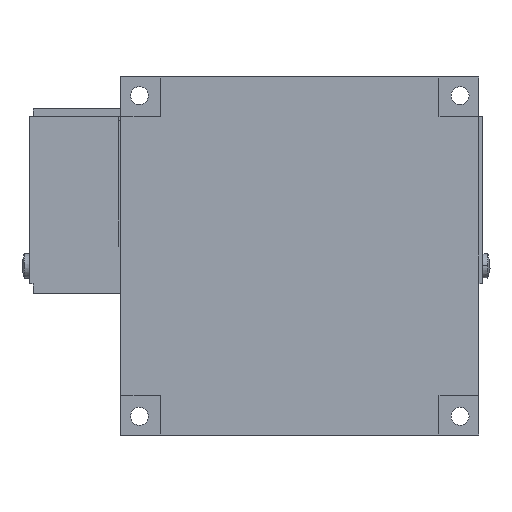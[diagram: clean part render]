
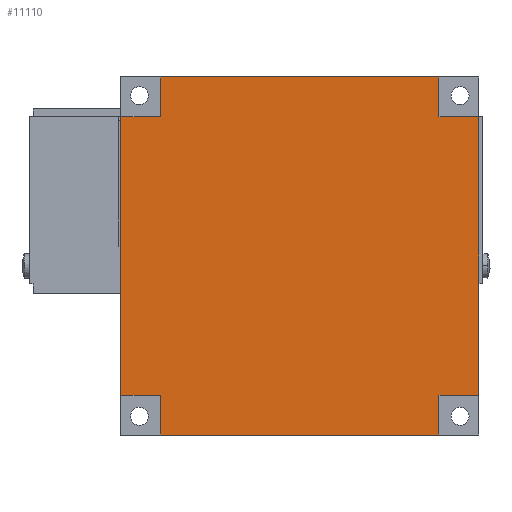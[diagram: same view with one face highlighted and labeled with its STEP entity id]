
A CAD part, front view. The second image highlights one B-rep face of the part: STEP entity #11110.
In plain terms, the highlighted planar face has unit normal (0, -1, 0).
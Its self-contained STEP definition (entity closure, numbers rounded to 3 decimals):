
#59 = CARTESIAN_POINT ( 'NONE',  ( 35., 0.5, 45. ) ) ;
#60 = DIRECTION ( 'NONE',  ( 0., 0., 1. ) ) ;
#61 = VECTOR ( 'NONE', #60, 1000. ) ;
#62 = CARTESIAN_POINT ( 'NONE',  ( 35., 0.5, 35. ) ) ;
#63 = LINE ( 'NONE', #62, #61 ) ;
#68 = CARTESIAN_POINT ( 'NONE',  ( 35., 0.5, 35. ) ) ;
#128 = CARTESIAN_POINT ( 'NONE',  ( -35., 0.5, 45. ) ) ;
#383 = LINE ( 'NONE', #442, #441 ) ;
#440 = DIRECTION ( 'NONE',  ( 0., 0., -1. ) ) ;
#441 = VECTOR ( 'NONE', #440, 1000. ) ;
#442 = CARTESIAN_POINT ( 'NONE',  ( -35., 0.5, 35. ) ) ;
#1639 = VERTEX_POINT ( 'NONE', #15020 ) ;
#1646 = VERTEX_POINT ( 'NONE', #15015 ) ;
#1647 = EDGE_CURVE ( 'NONE', #1639, #1646, #15014, .T. ) ;
#1659 = VERTEX_POINT ( 'NONE', #15069 ) ;
#1670 = EDGE_CURVE ( 'NONE', #1687, #10148, #15060, .T. ) ;
#1687 = VERTEX_POINT ( 'NONE', #15107 ) ;
#1689 = EDGE_CURVE ( 'NONE', #1659, #1687, #15106, .T. ) ;
#1699 = EDGE_CURVE ( 'NONE', #10204, #1700, #15096, .T. ) ;
#1700 = VERTEX_POINT ( 'NONE', #15092 ) ;
#1900 = DIRECTION ( 'NONE',  ( -1., 0., 0. ) ) ;
#1901 = VECTOR ( 'NONE', #1900, 1000. ) ;
#1902 = CARTESIAN_POINT ( 'NONE',  ( 45., 0.5, -45. ) ) ;
#1903 = LINE ( 'NONE', #1902, #1901 ) ;
#1904 = CARTESIAN_POINT ( 'NONE',  ( -35., 0.5, -45. ) ) ;
#2138 = CARTESIAN_POINT ( 'NONE',  ( 35., 0.5, -45. ) ) ;
#2823 = DIRECTION ( 'NONE',  ( 0., 0., 1. ) ) ;
#2824 = VECTOR ( 'NONE', #2823, 1000. ) ;
#2825 = CARTESIAN_POINT ( 'NONE',  ( -45., 0.5, 45. ) ) ;
#2826 = LINE ( 'NONE', #2825, #2824 ) ;
#3810 = CARTESIAN_POINT ( 'NONE',  ( 45., 0.5, -35. ) ) ;
#3920 = DIRECTION ( 'NONE',  ( 1., 0., 0. ) ) ;
#3921 = VECTOR ( 'NONE', #3920, 1000. ) ;
#3922 = CARTESIAN_POINT ( 'NONE',  ( 45., 0.5, 45. ) ) ;
#3923 = LINE ( 'NONE', #3922, #3921 ) ;
#3924 = CARTESIAN_POINT ( 'NONE',  ( 45., 0.5, 35. ) ) ;
#3931 = DIRECTION ( 'NONE',  ( 1., 0., 0. ) ) ;
#3932 = VECTOR ( 'NONE', #3931, 1000. ) ;
#3933 = CARTESIAN_POINT ( 'NONE',  ( 45., 0.5, -35. ) ) ;
#3934 = LINE ( 'NONE', #3933, #3932 ) ;
#3963 = DIRECTION ( 'NONE',  ( -1., 0., 0. ) ) ;
#3964 = VECTOR ( 'NONE', #3963, 1000. ) ;
#3965 = CARTESIAN_POINT ( 'NONE',  ( 45., 0.5, 35. ) ) ;
#3966 = LINE ( 'NONE', #3965, #3964 ) ;
#4001 = DIRECTION ( 'NONE',  ( 0., 0., -1. ) ) ;
#4002 = DIRECTION ( 'NONE',  ( 0., 1., 0. ) ) ;
#4003 = CARTESIAN_POINT ( 'NONE',  ( 0., 0.5, 0. ) ) ;
#4004 = AXIS2_PLACEMENT_3D ( 'NONE', #4003, #4002, #4001 ) ;
#4005 = PLANE ( 'NONE',  #4004 ) ;
#4007 = FACE_OUTER_BOUND ( 'NONE', #11069, .T. ) ;
#4836 = DIRECTION ( 'NONE',  ( 0., 0., -1. ) ) ;
#4837 = VECTOR ( 'NONE', #4836, 1000. ) ;
#4838 = CARTESIAN_POINT ( 'NONE',  ( 45., 0.5, 45. ) ) ;
#4839 = LINE ( 'NONE', #4838, #4837 ) ;
#5924 = VERTEX_POINT ( 'NONE', #68 ) ;
#6383 = EDGE_CURVE ( 'NONE', #5924, #6450, #63, .T. ) ;
#6450 = VERTEX_POINT ( 'NONE', #59 ) ;
#8172 = VERTEX_POINT ( 'NONE', #128 ) ;
#9710 = EDGE_CURVE ( 'NONE', #8172, #1639, #383, .T. ) ;
#10148 = VERTEX_POINT ( 'NONE', #1904 ) ;
#10150 = EDGE_CURVE ( 'NONE', #10204, #10148, #1903, .T. ) ;
#10204 = VERTEX_POINT ( 'NONE', #2138 ) ;
#10630 = EDGE_CURVE ( 'NONE', #1659, #1646, #2826, .T. ) ;
#11020 = VERTEX_POINT ( 'NONE', #3810 ) ;
#11069 = EDGE_LOOP ( 'NONE', ( #11104, #11084, #11087, #11082, #11527, #11528, #11529, #11514, #11515, #11516, #11517, #11518 ) ) ;
#11078 = EDGE_CURVE ( 'NONE', #1700, #11020, #3934, .T. ) ;
#11082 = ORIENTED_EDGE ( 'NONE', *, *, #9710, .T. ) ;
#11083 = VERTEX_POINT ( 'NONE', #3924 ) ;
#11084 = ORIENTED_EDGE ( 'NONE', *, *, #6383, .T. ) ;
#11085 = EDGE_CURVE ( 'NONE', #8172, #6450, #3923, .T. ) ;
#11087 = ORIENTED_EDGE ( 'NONE', *, *, #11085, .F. ) ;
#11095 = EDGE_CURVE ( 'NONE', #11083, #5924, #3966, .T. ) ;
#11104 = ORIENTED_EDGE ( 'NONE', *, *, #11095, .T. ) ;
#11110 = ADVANCED_FACE ( 'NONE', ( #4007 ), #4005, .F. ) ;
#11514 = ORIENTED_EDGE ( 'NONE', *, *, #1670, .T. ) ;
#11515 = ORIENTED_EDGE ( 'NONE', *, *, #10150, .F. ) ;
#11516 = ORIENTED_EDGE ( 'NONE', *, *, #1699, .T. ) ;
#11517 = ORIENTED_EDGE ( 'NONE', *, *, #11078, .T. ) ;
#11518 = ORIENTED_EDGE ( 'NONE', *, *, #11519, .F. ) ;
#11519 = EDGE_CURVE ( 'NONE', #11083, #11020, #4839, .T. ) ;
#11527 = ORIENTED_EDGE ( 'NONE', *, *, #1647, .T. ) ;
#11528 = ORIENTED_EDGE ( 'NONE', *, *, #10630, .F. ) ;
#11529 = ORIENTED_EDGE ( 'NONE', *, *, #1689, .T. ) ;
#15014 = LINE ( 'NONE', #15078, #15077 ) ;
#15015 = CARTESIAN_POINT ( 'NONE',  ( -45., 0.5, 35. ) ) ;
#15020 = CARTESIAN_POINT ( 'NONE',  ( -35., 0.5, 35. ) ) ;
#15057 = DIRECTION ( 'NONE',  ( 0., 0., -1. ) ) ;
#15058 = VECTOR ( 'NONE', #15057, 1000. ) ;
#15059 = CARTESIAN_POINT ( 'NONE',  ( -35., 0.5, -45. ) ) ;
#15060 = LINE ( 'NONE', #15059, #15058 ) ;
#15069 = CARTESIAN_POINT ( 'NONE',  ( -45., 0.5, -35. ) ) ;
#15076 = DIRECTION ( 'NONE',  ( -1., 0., 0. ) ) ;
#15077 = VECTOR ( 'NONE', #15076, 1000. ) ;
#15078 = CARTESIAN_POINT ( 'NONE',  ( -35., 0.5, 35. ) ) ;
#15092 = CARTESIAN_POINT ( 'NONE',  ( 35., 0.5, -35. ) ) ;
#15093 = DIRECTION ( 'NONE',  ( 0., 0., 1. ) ) ;
#15094 = VECTOR ( 'NONE', #15093, 1000. ) ;
#15095 = CARTESIAN_POINT ( 'NONE',  ( 35., 0.5, -45. ) ) ;
#15096 = LINE ( 'NONE', #15095, #15094 ) ;
#15103 = DIRECTION ( 'NONE',  ( 1., 0., 0. ) ) ;
#15104 = VECTOR ( 'NONE', #15103, 1000. ) ;
#15105 = CARTESIAN_POINT ( 'NONE',  ( -35., 0.5, -35. ) ) ;
#15106 = LINE ( 'NONE', #15105, #15104 ) ;
#15107 = CARTESIAN_POINT ( 'NONE',  ( -35., 0.5, -35. ) ) ;
